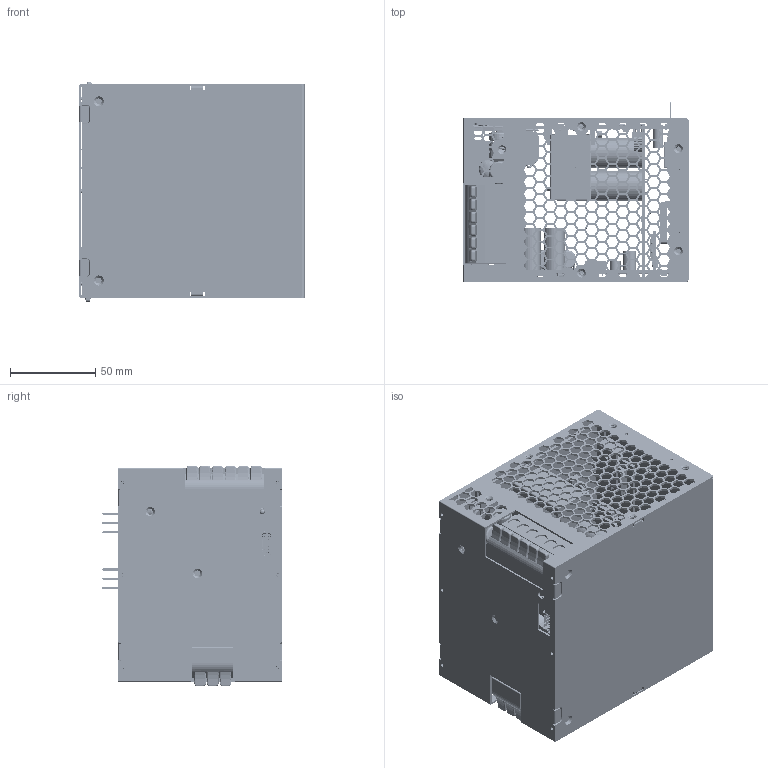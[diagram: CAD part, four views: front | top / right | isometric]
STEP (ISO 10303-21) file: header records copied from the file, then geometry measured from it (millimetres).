
FILE_DESCRIPTION(('Creo Elements/Direct Modeling STEP Export'),'2;1');
FILE_NAME('XDR-960LA.stp','2025-12-05T14:16:03',(''),(''),'Creo Elements/Direct Modeling STEP processor for AP214 (Solid Model)','Creo Elements/Direct Modeling 19.0G 27-Nov-2017 (C) Parametric Technology GmbH','');
FILE_SCHEMA(('AUTOMOTIVE_DESIGN { 1 0 10303 214 1 1 1 1 }'));
Products named in the file (1283): 上盖.1.1; 下盖.1.1; 下盖.1.2; 下盖; SDR-120_-___.stp; 装配1; NSDR-960机壳.stp; XDR-960CASE; 960CASE.stp; 零件1.1; 零件1.1.1; 陶瓷垫片; LA.1; _X2_96F64EF6_X0_1.PRT; _X2_96F64EF6_X0_5_1.PRT; _X2_656370ED7247_X0_.ASM; _X2_656370ED7247_X0_4.PRT; _X2_656370ED7247_X0_3.PRT; _X2_96F64EF6_X0_5_1_1.PRT; _X2_656370ED7247_X0_1.ASM; 底部散热片; 固定铁1; 固定铁3; 固定铁2; 固定铁4; 1GG2_X2_56FA5B9A94C1_X0_.ASM; SDR-120_-____STP.PRT; _X2_4E0B76D6_X0_.PRT; _X2_88C5914D_X0_1.ASM; NSDR-960_X2_673A58F3_X0__STP.ASM; XDR-960CASE.ASM; 960CASE_STP.ASM; _X2_96F64EF6_X0_1_1.PRT; _X2_967674F757AB7247_X0_.ASM; 123_1.ASM; 123.stp; BOARD.PRT; 766350368.PRT; C29.ASM; 766343528_1.PRT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
Assembly tree (1956 placements, depth 12):
  LA
    MPX332H-7508043701_20241-123800.PRT
    MPX332H-7508033701_20241005.PRT
    XDR-960ABCD-A.step
      PCB.ASM
        D103.ASM
          1085525024.ASM
            EXTRUDED-697453.PRT
          1085524864.ASM
            EXTRUDED-697081.PRT
          1085524704.ASM  x2
            EXTRUDED-339444.PRT
        U104.ASM
          2CUX-DBV-5_SOT23-5_.PRT
        R137.ASM
          789471048.ASM
            789471048_4.PRT
            789471048_3.PRT
            789471048_2.PRT
            789471048_1.PRT
        R128.ASM
          789483664.ASM
            789483664_4.PRT
            789483664_3.PRT
            789483664_2.PRT
            789483664_1.PRT
        R127.ASM
          789471048.ASM
            789471048_4.PRT
            789471048_3.PRT
            789471048_2.PRT
            789471048_1.PRT
        R126.ASM
          789471200.ASM
            789471200_4.PRT
            789471200_3.PRT
            789471200_2.PRT
            789471200_1.PRT
        R125.ASM
          789483512.ASM
            789483512_4.PRT
            789483512_3.PRT
            789483512_2.PRT
            789483512_1.PRT
        R124.ASM
          789471200.ASM
            789471200_4.PRT
            789471200_3.PRT
            789471200_2.PRT
            789471200_1.PRT
        Q122.ASM
          2CDX-SOT23.PRT
        Q113.ASM
          2CDX-SOT23.PRT
        D113.ASM
          2CDX-SOD323.PRT
        D100.ASM
          2CDX-SOD323.PRT
        C124.ASM
          789484728.PRT
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Bounding box: 132 x 105.48 x 129.07 mm (x, y, z)
Volume: 408907.4 mm3; surface area: 388671.7 mm2
Topology: 1699 solids, 1699 shells, 50961 faces, 133618 edges, 86560 vertices
Faces by surface type: plane 30419, extrusion 10904, cylinder 6927, sphere 1794, torus 567, cone 277, bspline 68, revolution 5
Entity records: 710018 total; most frequent: CARTESIAN_POINT 207057, ORIENTED_EDGE 89168, DIRECTION 79072, EDGE_CURVE 44584, VECTOR 34737, LINE 32603, VERTEX_POINT 29197, AXIS2_PLACEMENT_3D 22165
